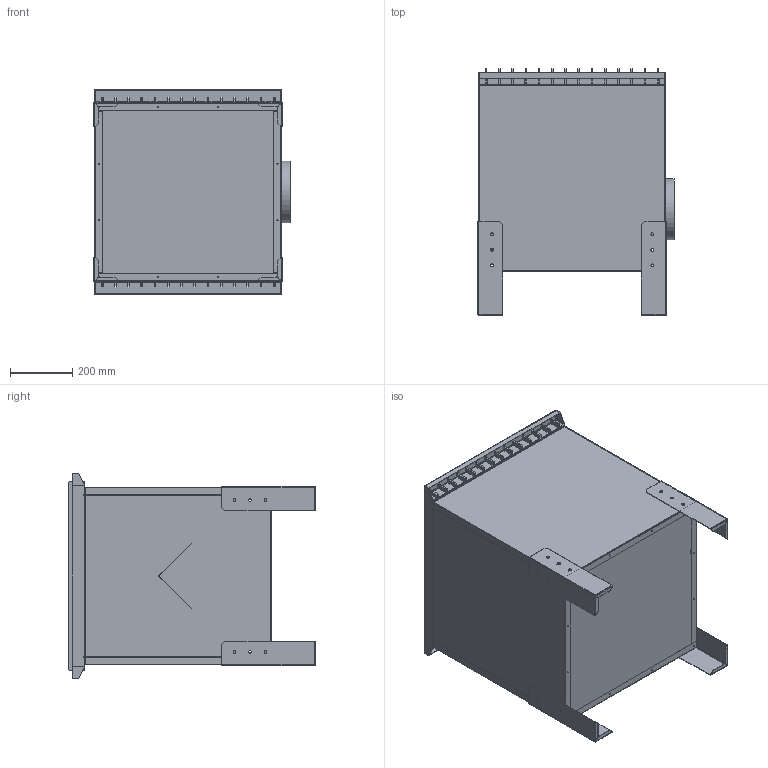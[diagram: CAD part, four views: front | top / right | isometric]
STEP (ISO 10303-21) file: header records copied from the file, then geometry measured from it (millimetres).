
FILE_DESCRIPTION(/* description */ ('Alibre Inc.'),/* implementation_level */ '2;1');
FILE_NAME(/* name */ 'export1',/* time_stamp */ '2017-01-18T08:40:15+01:00',/* author */ (''),/* organization */ (''),/* preprocessor_version */ 'ST-DEVELOPER v14',/* originating_system */ 'Alibre',/* authorisation */ '');
FILE_SCHEMA (('AUTOMOTIVE_DESIGN'));
Length unit declared in the file: centimetre
Bounding box: 630.85 x 793.12 x 660 mm (x, y, z)
Volume: 5400745.1 mm3; surface area: 6105821.5 mm2
Topology: 31 solids, 31 shells, 961 faces, 2628 edges, 1674 vertices
Faces by surface type: plane 681, cylinder 270, bspline 8, torus 2
Full cylindrical faces by diameter (mm): 3.3 x72, 9 x24, 196.2 x1, 198 x1, 203 x1, 228 x1
Entity records: 17528 total; most frequent: ORIENTED_EDGE 3024, CARTESIAN_POINT 3003, DIRECTION 2525, EDGE_CURVE 1512, VERTEX_POINT 1016, VECTOR 986, LINE 986, AXIS2_PLACEMENT_3D 943
